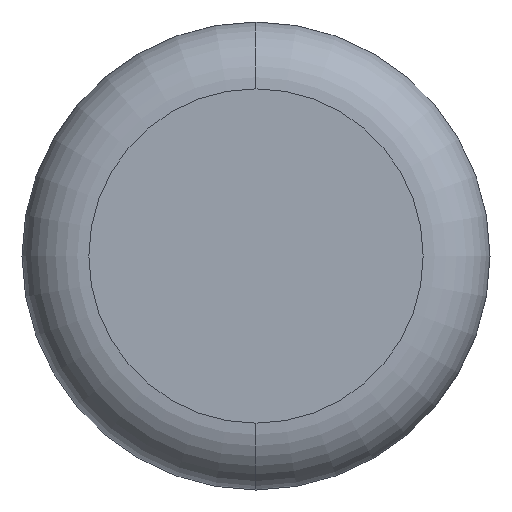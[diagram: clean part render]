
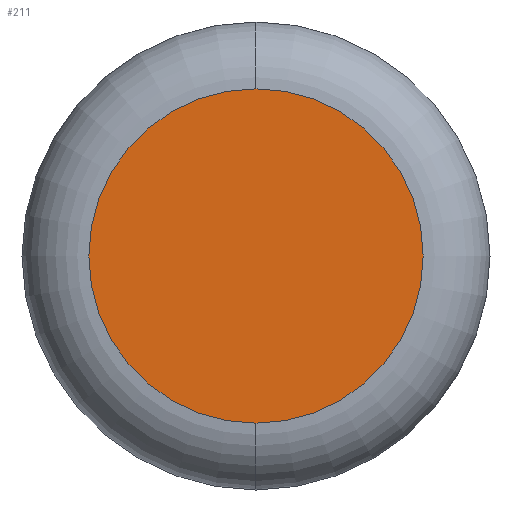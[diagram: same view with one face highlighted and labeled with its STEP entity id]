
A CAD part, left-side view. The second image highlights one B-rep face of the part: STEP entity #211.
In plain terms, the highlighted planar face has unit normal (-1, 0, 0).
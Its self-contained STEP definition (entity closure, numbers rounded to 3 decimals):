
#13 = AXIS2_PLACEMENT_3D ( 'NONE', #78, #89, #148 ) ;
#30 = AXIS2_PLACEMENT_3D ( 'NONE', #75, #108, #159 ) ;
#31 = VERTEX_POINT ( 'NONE', #120 ) ;
#40 = CARTESIAN_POINT ( 'NONE',  ( 0., 0., 5. ) ) ;
#56 = CARTESIAN_POINT ( 'NONE',  ( 0., 0., 0. ) ) ;
#60 = EDGE_LOOP ( 'NONE', ( #242, #110 ) ) ;
#64 = FACE_OUTER_BOUND ( 'NONE', #60, .T. ) ;
#65 = VERTEX_POINT ( 'NONE', #40 ) ;
#66 = CIRCLE ( 'NONE', #30, 5. ) ;
#75 = CARTESIAN_POINT ( 'NONE',  ( 0., 0., 0. ) ) ;
#78 = CARTESIAN_POINT ( 'NONE',  ( 0., 0., 0. ) ) ;
#79 = CIRCLE ( 'NONE', #13, 5. ) ;
#86 = EDGE_CURVE ( 'NONE', #65, #31, #79, .T. ) ;
#89 = DIRECTION ( 'NONE',  ( -1., 0., 0. ) ) ;
#108 = DIRECTION ( 'NONE',  ( -1., 0., 0. ) ) ;
#110 = ORIENTED_EDGE ( 'NONE', *, *, #86, .T. ) ;
#116 = AXIS2_PLACEMENT_3D ( 'NONE', #56, #213, #133 ) ;
#120 = CARTESIAN_POINT ( 'NONE',  ( 0., 0., -5. ) ) ;
#133 = DIRECTION ( 'NONE',  ( 0., 0., -1. ) ) ;
#148 = DIRECTION ( 'NONE',  ( 0., 0., -1. ) ) ;
#159 = DIRECTION ( 'NONE',  ( 0., 0., -1. ) ) ;
#165 = PLANE ( 'NONE',  #116 ) ;
#181 = EDGE_CURVE ( 'NONE', #31, #65, #66, .T. ) ;
#211 = ADVANCED_FACE ( 'NONE', ( #64 ), #165, .F. ) ;
#213 = DIRECTION ( 'NONE',  ( 1., 0., 0. ) ) ;
#242 = ORIENTED_EDGE ( 'NONE', *, *, #181, .T. ) ;
